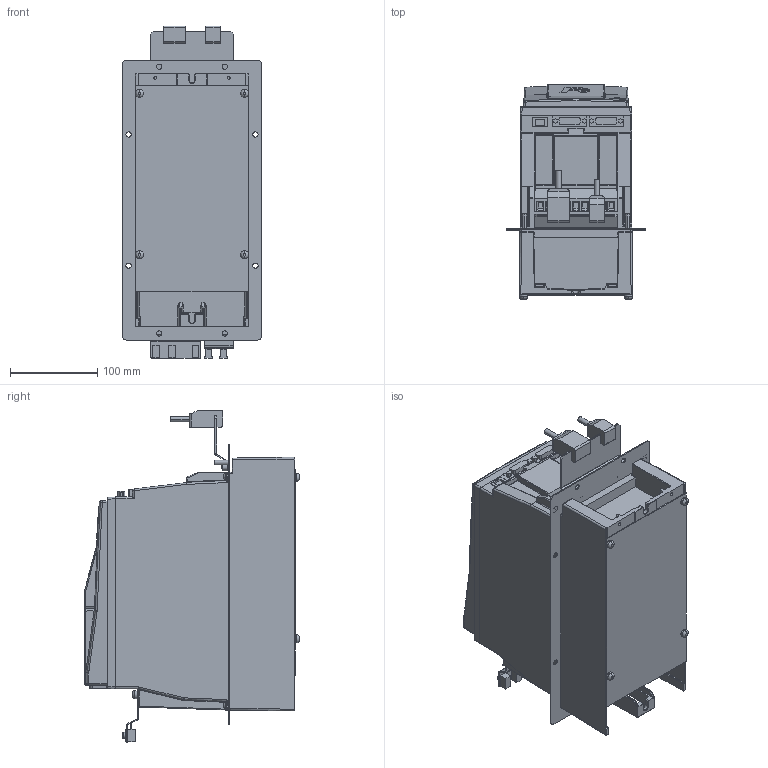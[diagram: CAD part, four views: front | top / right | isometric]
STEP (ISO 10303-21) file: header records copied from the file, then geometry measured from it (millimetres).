
FILE_DESCRIPTION (( 'STEP AP214' ), '1' );
FILE_NAME ('F6-2TR5-K0011.STEP', '2020-11-26T15:02:24', ( '' ), ( '' ), 'SwSTEP 2.0', 'SolidWorks 2019', '' );
FILE_SCHEMA (( 'AUTOMOTIVE_DESIGN' ));
Length unit declared in the file: millimetre
Products named in the file (1): F6-2TR5-K0011
Bounding box: 160 x 245.65 x 379.5 mm (x, y, z)
Volume: 7197364.3 mm3; surface area: 373018.3 mm2
Topology: 4 solids, 4 shells, 1583 faces, 3933 edges, 2387 vertices
Faces by surface type: plane 757, cylinder 462, bspline 219, torus 65, sphere 50, cone 30
Entity records: 54355 total; most frequent: CARTESIAN_POINT 18686, ORIENTED_EDGE 7738, DIRECTION 6853, EDGE_CURVE 3869, VERTEX_POINT 2387, AXIS2_PLACEMENT_3D 2307, VECTOR 2239, LINE 2239
